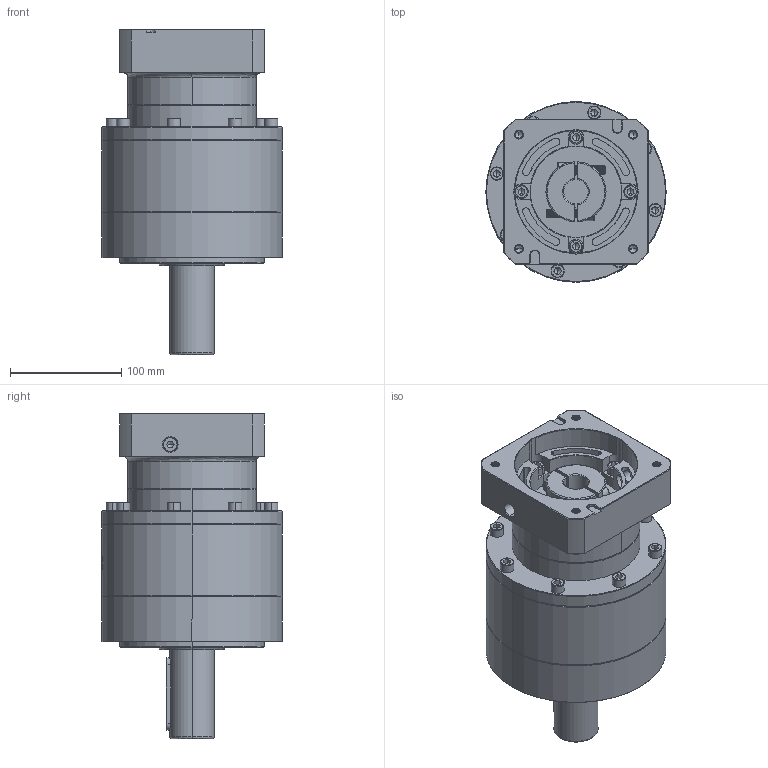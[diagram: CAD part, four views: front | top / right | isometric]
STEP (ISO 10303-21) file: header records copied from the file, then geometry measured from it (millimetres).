
FILE_DESCRIPTION (( 'STEP AP214' ), '1' );
FILE_NAME ('ZE160A-D40-L2-P2-22-110-145-M8.step', '2023-09-04T06:57:38', ( '' ), ( '' ), 'SwSTEP 2.0', 'SolidWorks 2016', '' );
FILE_SCHEMA (( 'AUTOMOTIVE_DESIGN' ));
Length unit declared in the file: millimetre
Products named in the file (1): ZE160A-D40-L2-P2-22-110-145-M8
Bounding box: 162 x 162 x 292.2 mm (x, y, z)
Volume: 3383226.8 mm3; surface area: 262632.4 mm2
Topology: 6 solids, 6 shells, 2606 faces, 6964 edges, 4474 vertices
Faces by surface type: plane 1140, cylinder 632, bspline 423, cone 355, torus 56
Entity records: 154559 total; most frequent: CARTESIAN_POINT 67015, ORIENTED_EDGE 13804, DIRECTION 10298, EDGE_CURVE 6902, VERTEX_POINT 4474, VECTOR 3586, LINE 3586, AXIS2_PLACEMENT_3D 3356
